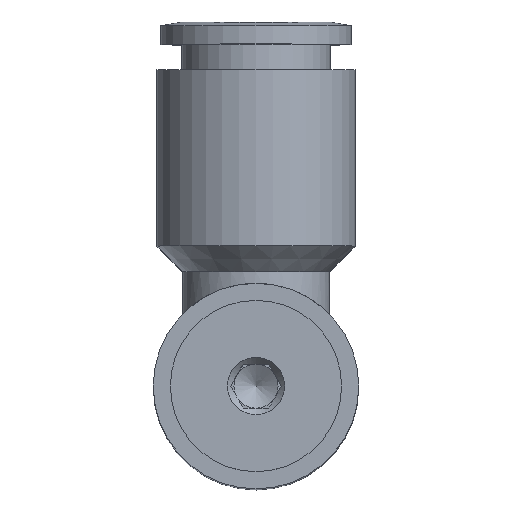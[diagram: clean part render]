
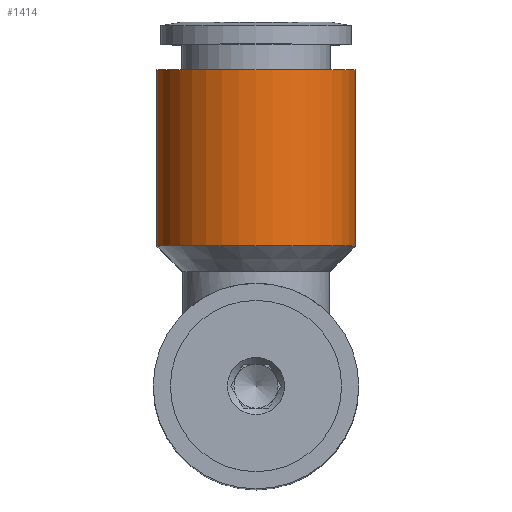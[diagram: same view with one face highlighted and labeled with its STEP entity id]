
A CAD part, top view. The second image highlights one B-rep face of the part: STEP entity #1414.
In plain terms, the highlighted cylindrical face has radius 6.75 mm (diameter 13.5 mm), a full revolution.
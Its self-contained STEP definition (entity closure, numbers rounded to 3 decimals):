
#1380=CARTESIAN_POINT('',(-6.75,9.55,30.0));
#1381=VERTEX_POINT('',#1380);
#1382=CARTESIAN_POINT('',(0.0,9.55,30.0));
#1383=DIRECTION('',(0.0,1.0,0.0));
#1384=DIRECTION('',(-1.0,0.0,0.0));
#1385=AXIS2_PLACEMENT_3D('',#1382,#1383,#1384);
#1386=CIRCLE('',#1385,6.75);
#1387=EDGE_CURVE('',#1381,#1381,#1386,.T.);
#1395=CARTESIAN_POINT('',(0.0,15.55,30.0));
#1396=DIRECTION('',(0.0,1.0,0.0));
#1397=DIRECTION('',(-1.0,0.0,0.0));
#1398=AXIS2_PLACEMENT_3D('',#1395,#1396,#1397);
#1399=CYLINDRICAL_SURFACE('',#1398,6.75);
#1400=CARTESIAN_POINT('',(-6.75,21.55,30.0));
#1401=VERTEX_POINT('',#1400);
#1402=CARTESIAN_POINT('',(0.0,21.55,30.0));
#1403=DIRECTION('',(0.0,1.0,0.0));
#1404=DIRECTION('',(-1.0,0.0,0.0));
#1405=AXIS2_PLACEMENT_3D('',#1402,#1403,#1404);
#1406=CIRCLE('',#1405,6.75);
#1407=EDGE_CURVE('',#1401,#1401,#1406,.T.);
#1408=ORIENTED_EDGE('',*,*,#1407,.F.);
#1409=EDGE_LOOP('',(#1408));
#1410=FACE_OUTER_BOUND('',#1409,.T.);
#1411=ORIENTED_EDGE('',*,*,#1387,.T.);
#1412=EDGE_LOOP('',(#1411));
#1413=FACE_BOUND('',#1412,.T.);
#1414=ADVANCED_FACE('',(#1410,#1413),#1399,.T.);
